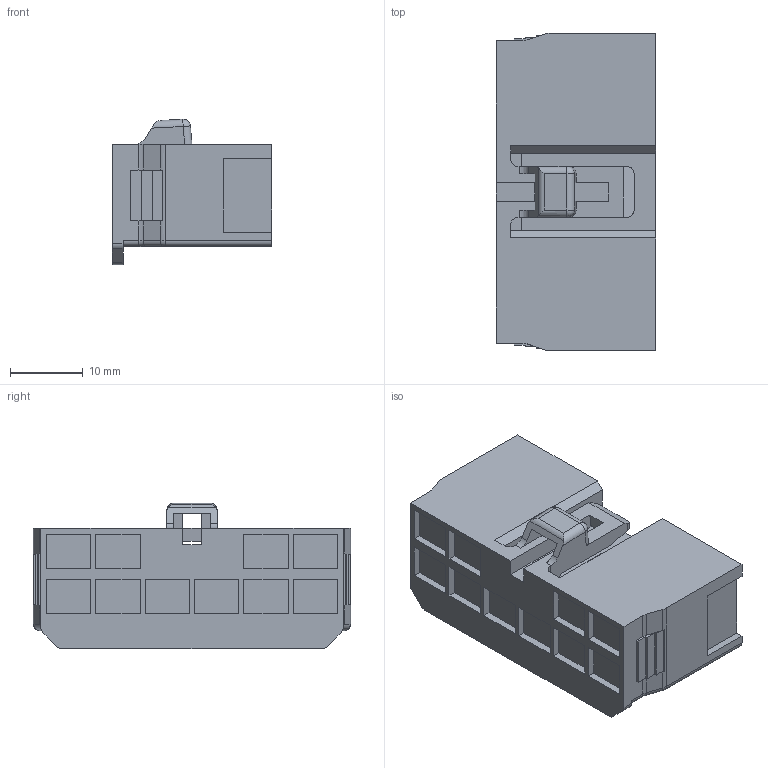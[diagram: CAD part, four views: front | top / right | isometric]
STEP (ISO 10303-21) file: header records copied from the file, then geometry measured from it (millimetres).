
FILE_DESCRIPTION(('CATIA V5 STEP Exchange'),'2;1');
FILE_NAME('N:\C-DAM_MyDesk\ENV\900093\6098-0156.stp','2013-07-09T00:25:55+00:00',('none'),('none'),'CATIA Version 5 Release 20 SP 4 (IN-10)','CATIA V5 STEP AP203','none');
FILE_SCHEMA(('CONFIG_CONTROL_DESIGN'));
Length unit declared in the file: millimetre
Products named in the file (1): 6098-0156
Bounding box: 22 x 43.7 x 20.05 mm (x, y, z)
Volume: 12042.9 mm3; surface area: 4945.2 mm2
Topology: 1 solids, 1 shells, 220 faces, 580 edges, 376 vertices
Faces by surface type: plane 185, cylinder 29, torus 4, sphere 2
Entity records: 6397 total; most frequent: CARTESIAN_POINT 1192, ORIENTED_EDGE 1156, DIRECTION 884, EDGE_CURVE 578, VECTOR 512, LINE 512, VERTEX_POINT 376, EDGE_LOOP 240
